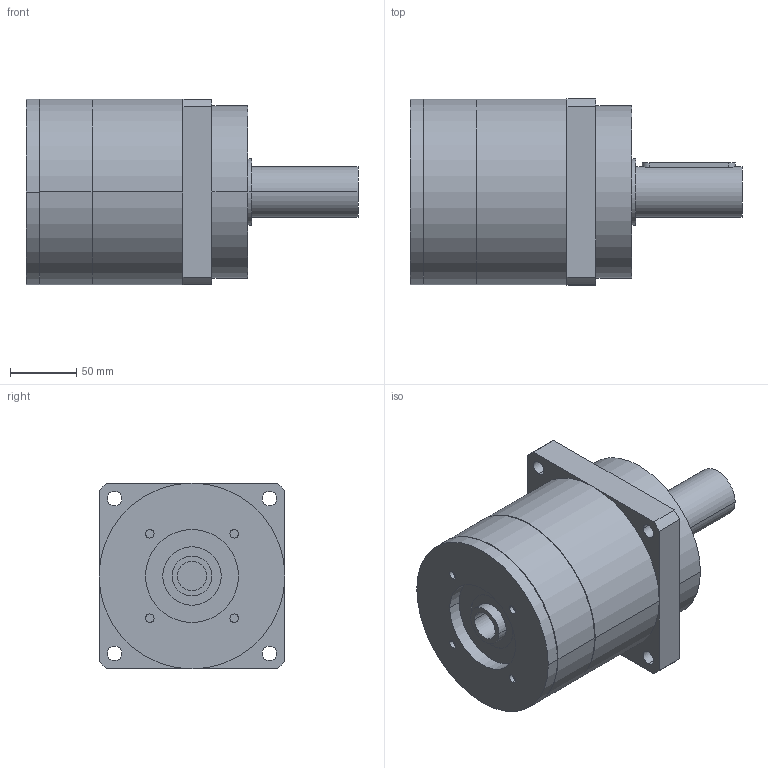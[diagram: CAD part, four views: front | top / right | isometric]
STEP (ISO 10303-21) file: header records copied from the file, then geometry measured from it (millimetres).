
FILE_DESCRIPTION(('CoCreate Modeling STEP Export'),'2;1');
FILE_NAME('GPR150_ig-3-4-5-7_38_B5_22_P15.stp','2014-08-26T15:29:22',(''),(''),'CoCreate Modeling STEP processor for AP214 (Solid Model)','CoCreate Modeling 16.00C 25-Feb-2009 (C) Parametric Technology GmbH','');
FILE_SCHEMA(('AUTOMOTIVE_DESIGN { 1 0 10303 214 1 1 1 1 }'));
Length unit declared in the file: millimetre
Products named in the file (2): GPR150_ig-3-4-5-7_38_B5_22_P15
Assembly tree (1 placements, depth 2):
  GPR150_ig-3-4-5-7_38_B5_22_P15
    GPR150_ig-3-4-5-7_38_B5_22_P15
Bounding box: 250 x 140 x 140 mm (x, y, z)
Volume: 2637504.5 mm3; surface area: 135893.1 mm2
Topology: 1 solids, 1 shells, 88 faces, 221 edges, 151 vertices
Faces by surface type: cylinder 52, plane 30, cone 6
Entity records: 2312 total; most frequent: ORIENTED_EDGE 438, CARTESIAN_POINT 423, DIRECTION 320, EDGE_CURVE 219, VERTEX_POINT 151, AXIS2_PLACEMENT_3D 120, EDGE_LOOP 114, FACE_OUTER_BOUND 88
